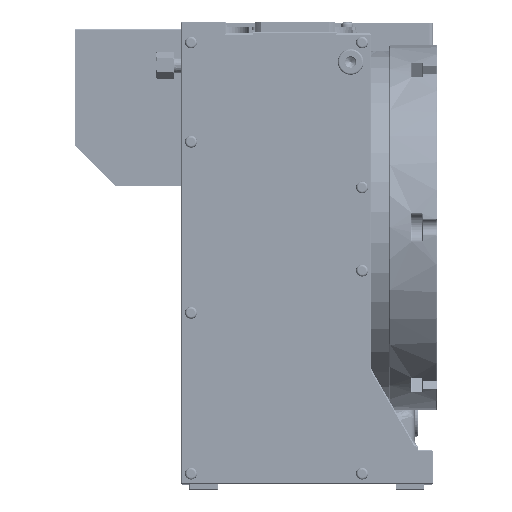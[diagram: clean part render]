
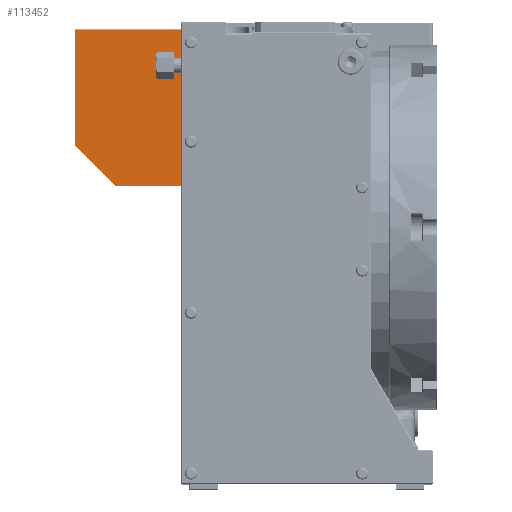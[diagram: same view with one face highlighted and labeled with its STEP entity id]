
A CAD part, top view. The second image highlights one B-rep face of the part: STEP entity #113452.
In plain terms, the highlighted planar face has unit normal (0, 0, 1) as drawn and (0, 0, -1) by its records, which use the part's own axes.
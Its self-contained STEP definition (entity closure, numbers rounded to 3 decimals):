
#889 = CARTESIAN_POINT ( 'NONE',  ( 110., 69., -69. ) ) ;
#5791 = CARTESIAN_POINT ( 'NONE',  ( 74., -69., -69. ) ) ;
#13647 = ORIENTED_EDGE ( 'NONE', *, *, #14093, .T. ) ;
#14093 = EDGE_CURVE ( 'NONE', #69943, #17601, #126933, .T. ) ;
#17601 = VERTEX_POINT ( 'NONE', #128516 ) ;
#20529 = VECTOR ( 'NONE', #63471, 1000. ) ;
#23025 = ORIENTED_EDGE ( 'NONE', *, *, #83487, .F. ) ;
#26647 = EDGE_LOOP ( 'NONE', ( #23025, #57284, #45862, #116827, #13647 ) ) ;
#35413 = CARTESIAN_POINT ( 'NONE',  ( 0., 69., -69. ) ) ;
#39601 = CARTESIAN_POINT ( 'NONE',  ( 110., 67.4, -69. ) ) ;
#39844 = VECTOR ( 'NONE', #65363, 1000. ) ;
#40658 = LINE ( 'NONE', #113254, #127165 ) ;
#44476 = LINE ( 'NONE', #889, #108748 ) ;
#45862 = ORIENTED_EDGE ( 'NONE', *, *, #78623, .T. ) ;
#48397 = EDGE_CURVE ( 'NONE', #85871, #84958, #151654, .T. ) ;
#52366 = CARTESIAN_POINT ( 'NONE',  ( 1.6, -69., -69. ) ) ;
#57166 = CARTESIAN_POINT ( 'NONE',  ( 110., -33., -69. ) ) ;
#57284 = ORIENTED_EDGE ( 'NONE', *, *, #48397, .T. ) ;
#63471 = DIRECTION ( 'NONE',  ( 0., -1., 0. ) ) ;
#65363 = DIRECTION ( 'NONE',  ( 1., 0., 0. ) ) ;
#69943 = VERTEX_POINT ( 'NONE', #5791 ) ;
#73463 = PLANE ( 'NONE',  #186630 ) ;
#73496 = DIRECTION ( 'NONE',  ( 0., -1., 0. ) ) ;
#78623 = EDGE_CURVE ( 'NONE', #84958, #96366, #44476, .T. ) ;
#83487 = EDGE_CURVE ( 'NONE', #85871, #17601, #168146, .T. ) ;
#84958 = VERTEX_POINT ( 'NONE', #39601 ) ;
#85871 = VERTEX_POINT ( 'NONE', #145182 ) ;
#87056 = DIRECTION ( 'NONE',  ( -0.707, -0.707, 0. ) ) ;
#96366 = VERTEX_POINT ( 'NONE', #57166 ) ;
#96818 = DIRECTION ( 'NONE',  ( -1., 0., 0. ) ) ;
#100563 = DIRECTION ( 'NONE',  ( 0., 0., -1. ) ) ;
#108748 = VECTOR ( 'NONE', #73496, 1000. ) ;
#113254 = CARTESIAN_POINT ( 'NONE',  ( 106.8, -36.2, -69. ) ) ;
#113452 = ADVANCED_FACE ( 'NONE', ( #117052 ), #73463, .T. ) ;
#116827 = ORIENTED_EDGE ( 'NONE', *, *, #170420, .T. ) ;
#117052 = FACE_OUTER_BOUND ( 'NONE', #26647, .T. ) ;
#126933 = LINE ( 'NONE', #52366, #129648 ) ;
#127165 = VECTOR ( 'NONE', #87056, 1000. ) ;
#128516 = CARTESIAN_POINT ( 'NONE',  ( 0., -69., -69. ) ) ;
#129648 = VECTOR ( 'NONE', #96818, 1000. ) ;
#131626 = DIRECTION ( 'NONE',  ( 0., 1., 0. ) ) ;
#145182 = CARTESIAN_POINT ( 'NONE',  ( 0., 67.4, -69. ) ) ;
#151654 = LINE ( 'NONE', #167146, #39844 ) ;
#167146 = CARTESIAN_POINT ( 'NONE',  ( 1.6, 67.4, -69. ) ) ;
#168146 = LINE ( 'NONE', #35413, #20529 ) ;
#170420 = EDGE_CURVE ( 'NONE', #96366, #69943, #40658, .T. ) ;
#186630 = AXIS2_PLACEMENT_3D ( 'NONE', #187779, #100563, #131626 ) ;
#187779 = CARTESIAN_POINT ( 'NONE',  ( 1.6, 69., -69. ) ) ;
